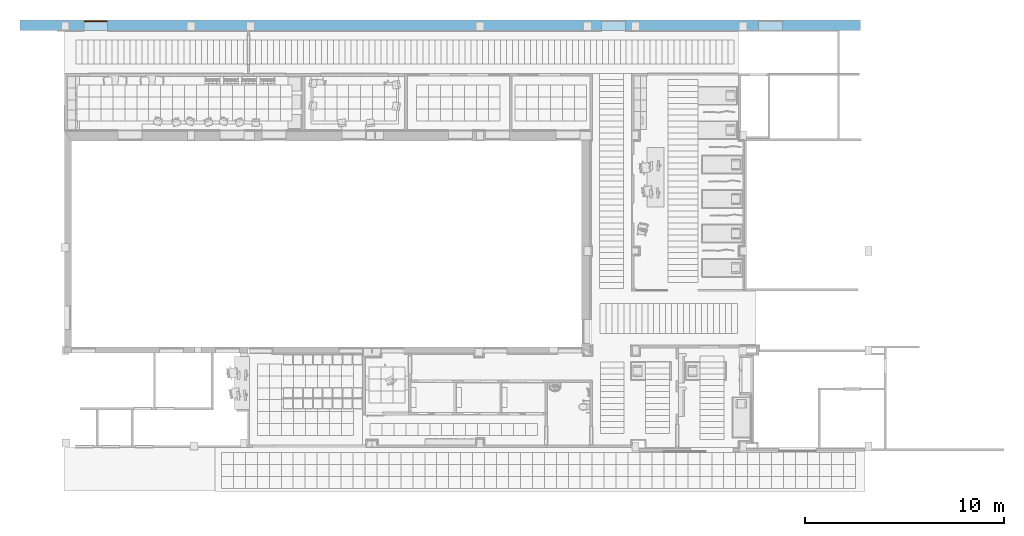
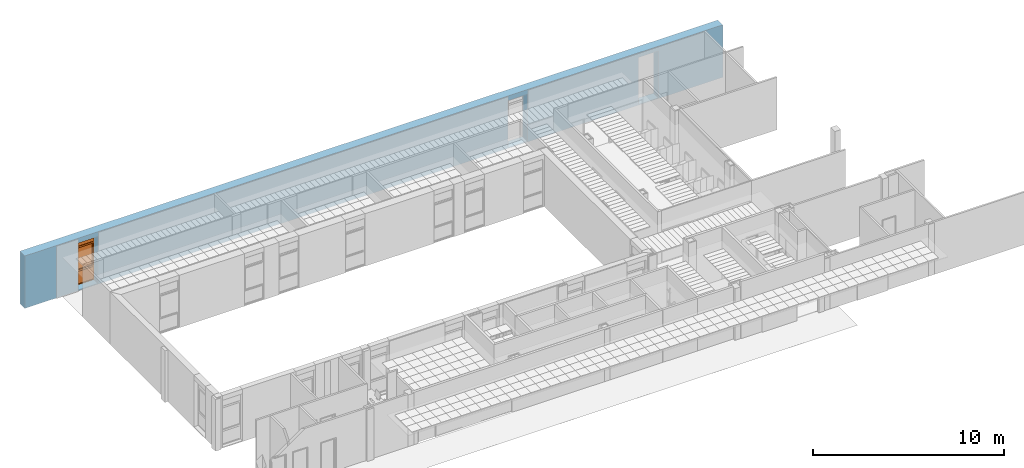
# One storey, part 42 of 68: 1 proxy, 3 openings, plus 1 element that does not belong to this part.
"""IFC2X3 building model written with IfcOpenShell, lengths in millimetres."""

from ifc_helpers import new_model, entity, si_unit, converted_unit, derived_unit, money_unit, direction, frame, origin_with_axes, origin_2d_with_axis, place, context, subcontext, project, spatial, polyline, rectangle, outline, extrude, open_shell, faceted_brep, surface_model, source, transform, mapped, material, layer, layer_set, layer_usage, type_object, element, fill, save


model = new_model("IFC2X3")

# Units and contexts
model_context = context("Model", 3, precision=0.01, world=origin_with_axes(), true_north=direction((0.0, 1.0)))
body_context = subcontext(model_context, "Body", "Model", "MODEL_VIEW")
ifc_project = project(units=[si_unit("LENGTHUNIT", "METRE", prefix="MILLI"), si_unit("AREAUNIT", "SQUARE_METRE"), si_unit("VOLUMEUNIT", "CUBIC_METRE"), converted_unit("PLANEANGLEUNIT", "DEGREE", entity("IfcPlaneAngleMeasure", 0.0174532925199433), si_unit("PLANEANGLEUNIT", "RADIAN"), dimensions=[0, 0, 0, 0, 0, 0, 0]), money_unit("USD"), converted_unit("TIMEUNIT", "Year", entity("IfcTimeMeasure", 31557600.0), si_unit("TIMEUNIT", "SECOND"), dimensions=[0, 0, 1, 0, 0, 0, 0]), si_unit("MASSUNIT", "GRAM", prefix="KILO"), si_unit("THERMODYNAMICTEMPERATUREUNIT", "DEGREE_CELSIUS"), si_unit("LUMINOUSINTENSITYUNIT", "LUMEN"), si_unit("ENERGYUNIT", "JOULE", prefix="MEGA"), derived_unit("THERMALCONDUCTANCEUNIT", [(si_unit("POWERUNIT", "WATT"), 1), (si_unit("LENGTHUNIT", "METRE"), -1), (si_unit("THERMODYNAMICTEMPERATUREUNIT", "KELVIN"), -1)]), derived_unit("SPECIFICHEATCAPACITYUNIT", [(si_unit("ENERGYUNIT", "JOULE"), 1), (si_unit("MASSUNIT", "GRAM", prefix="KILO"), -1), (si_unit("THERMODYNAMICTEMPERATUREUNIT", "KELVIN"), -1)]), derived_unit("MASSDENSITYUNIT", [(si_unit("MASSUNIT", "GRAM", prefix="KILO"), 1), (si_unit("VOLUMEUNIT", "CUBIC_METRE"), -1)])], contexts=[model_context])

# Site, building, storey
site_placement = place(None, origin_with_axes())
site = spatial("IfcSite", under=ifc_project, at=site_placement, Name="Sitio", CompositionType="ELEMENT")
building_placement = place(site_placement, origin_with_axes())
building = spatial("IfcBuilding", under=site, at=building_placement, Name="Construcción", CompositionType="ELEMENT")
storey_placement = place(building_placement, origin_with_axes())
storey = spatial("IfcBuildingStorey", under=building, at=storey_placement, Name="PLANTA 1ª", CompositionType="ELEMENT", Elevation=0.0)

# Wall, openings, proxy
ifc_material_1 = material(Name="ARQ_CE217_Gero")
ifc_layer_1 = layer(ifc_material_1, 100.0, ventilated="UNKNOWN")
ifc_material_2 = material(Name="ARQ_AI031_Aillament_Poliestireno expandido EPS")
ifc_layer_2 = layer(ifc_material_2, 205.0, ventilated="UNKNOWN")
ifc_material_3 = material(Name="ARQ_CE218_Ceramic")
ifc_layer_3 = layer(ifc_material_3, 200.0, ventilated="UNKNOWN")
ifc_material_4 = material(Name="ARQ_AM246_Arrebossat_De_Guix")
ifc_layer_4 = layer(ifc_material_4, 10.0, ventilated="UNKNOWN")
ifc_layer_set = layer_set([ifc_layer_1, ifc_layer_2, ifc_layer_3, ifc_layer_4], Name="façana pati CR5")
ifc_layer_usage = layer_usage(ifc_layer_set, "AXIS2", "NEGATIVE", 515.0)
wall_type = type_object("IfcWallType", Name="façana pati CR5 515", PredefinedType="NOTDEFINED")
wall_placement = place(storey_placement, frame((11882.64037720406, 4378.454186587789, 0.0), z_axis=(0.0, 0.0, 1.0), x_axis=(-1.0, 0.0, 0.0)))
wall = element("IfcWallStandardCase", 1, at=wall_placement, inside=storey, type_object=wall_type, material=ifc_layer_usage, Name="MS-201", context=body_context, shape_type="SweptSolid", body=[
    extrude(outline(polyline([(0.0, 0.0), (42162.71352873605, 0.0), (42162.71352873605, 515.0000000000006), (0.0, 515.0000000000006), (0.0, 0.0)])), origin_with_axes(), (0.0, 0.0, 1.0), 3350.0),
])
opening_1_placement = place(wall_placement, frame((12393.17017963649, 0.0, 50.0), z_axis=(0.0, 0.0, 1.0), x_axis=(1.0, 0.0, 0.0)))
element("IfcOpeningElement", 2, at=opening_1_placement, cuts=wall, Name="V - 008", context=body_context, shape_type="SweptSolid", body=[
    extrude(rectangle(XDim=1199.999999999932, YDim=3000.0, at=origin_2d_with_axis()), frame((0.0, 49.99999999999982, 1500.0), z_axis=(0.0, 1.0, 0.0), x_axis=(1.0, 0.0, 0.0)), (0.0, 0.0, 1.0), 980.0),
    extrude(rectangle(XDim=1199.999999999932, YDim=3000.0, at=origin_2d_with_axis()), frame((0.0, 49.99999999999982, 1500.0), z_axis=(0.0, -1.0, 0.0), x_axis=(1.0, 0.0, 0.0)), (0.0, 0.0, 1.0), 565.0000000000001),
])
opening_2_placement = place(wall_placement, frame((4499.643658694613, 0.0, 50.0), z_axis=(0.0, 0.0, 1.0), x_axis=(1.0, 0.0, 0.0)))
element("IfcOpeningElement", 3, at=opening_2_placement, cuts=wall, Name="V - 009", context=body_context, shape_type="SweptSolid", body=[
    extrude(rectangle(XDim=1199.999999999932, YDim=3000.0, at=origin_2d_with_axis()), frame((0.0, 49.99999999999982, 1500.0), z_axis=(0.0, 1.0, 0.0), x_axis=(1.0, 0.0, 0.0)), (0.0, 0.0, 1.0), 980.0),
    extrude(rectangle(XDim=1199.999999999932, YDim=3000.0, at=origin_2d_with_axis()), frame((0.0, 49.99999999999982, 1500.0), z_axis=(0.0, -1.0, 0.0), x_axis=(1.0, 0.0, 0.0)), (0.0, 0.0, 1.0), 565.0000000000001),
])
opening_3_placement = place(wall_placement, frame((38361.73170307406, 0.0, 50.0), z_axis=(0.0, 0.0, 1.0), x_axis=(1.0, 0.0, 0.0)))
opening_3 = element("IfcOpeningElement", 4, at=opening_3_placement, cuts=wall, Name="V - 010", context=body_context, shape_type="SweptSolid", body=[
    extrude(rectangle(XDim=1199.999999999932, YDim=3000.0, at=origin_2d_with_axis()), frame((0.0, 49.99999999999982, 1500.0), z_axis=(0.0, -1.0, 0.0), x_axis=(-1.0, 0.0, 0.0)), (0.0, 0.0, -1.0), 980.0),
    extrude(rectangle(XDim=1199.999999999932, YDim=3000.0, at=origin_2d_with_axis()), frame((0.0, 49.99999999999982, 1500.0), z_axis=(0.0, 1.0, 0.0), x_axis=(-1.0, 0.0, 0.0)), (0.0, 0.0, -1.0), 565.0000000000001),
])
building_element_proxy_type = type_object("IfcBuildingElementProxyType", Name="Ventana Vertical Multi-Faja 27", PredefinedType="NOTDEFINED")
shared_shape = source(origin_with_axes(), body_context, "Body", "SurfaceModel", [
    faceted_brep([(-574.9999999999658, 0.0, 925.0), (-549.9999999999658, 0.0, 925.0), (-549.9999999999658, 0.0, 850.0), (-549.9999999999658, 0.0, 50.00000000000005), (-599.9999999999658, 0.0, 50.00000000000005), (-599.9999999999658, 0.0, 2950.0), (-549.9999999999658, 0.0, 2950.0), (-549.9999999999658, 0.0, 2450.0), (-549.9999999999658, 0.0, 2375.0), (-574.9999999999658, 0.0, 2375.0), (-574.9999999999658, -25.00000000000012, 925.0), (-549.9999999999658, -25.00000000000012, 925.0), (-549.9999999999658, -25.00000000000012, 950.0000000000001), (-549.9999999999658, -50.00000000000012, 950.0000000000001), (-549.9999999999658, -50.00000000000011, 850.0), (-549.9999999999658, -50.00000000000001, 50.00000000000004), (-599.9999999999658, -50.00000000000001, 50.00000000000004), (-599.9999999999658, -50.00000000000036, 2950.0), (-549.9999999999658, -50.00000000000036, 2950.0), (-549.9999999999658, -50.0000000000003, 2450.0), (-549.9999999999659, -25.00000000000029, 2375.0), (-549.9999999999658, -50.00000000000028, 2350.0), (-549.9999999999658, -25.00000000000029, 2350.0), (-574.9999999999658, -25.00000000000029, 2375.0)], [[[0, 1, 2, 3, 4, 5, 6, 7, 8, 9]], [[0, 10, 11, 1]], [[11, 12, 13, 14, 2, 1]], [[3, 2, 14, 15]], [[4, 3, 15, 16]], [[5, 4, 16, 17]], [[6, 5, 17, 18]], [[7, 6, 18, 19]], [[20, 8, 7, 19, 21, 22]], [[20, 23, 9, 8]], [[9, 23, 10, 0]], [[22, 12, 11, 10, 23, 20]], [[22, 21, 13, 12]], [[17, 16, 15, 14, 13, 21, 19, 18]]]),
    faceted_brep([(574.9999999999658, 0.0, 925.0), (574.9999999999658, 0.0, 2375.0), (549.9999999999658, 0.0, 2375.0), (549.9999999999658, 0.0, 2450.0), (549.9999999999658, 0.0, 2950.0), (599.9999999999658, 0.0, 2950.0), (599.9999999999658, 0.0, 50.00000000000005), (549.9999999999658, 0.0, 50.00000000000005), (549.9999999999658, 0.0, 850.0), (549.9999999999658, 0.0, 925.0), (574.9999999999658, -25.00000000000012, 925.0), (574.9999999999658, -25.00000000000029, 2375.0), (549.9999999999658, -25.00000000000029, 2375.0), (549.9999999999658, -25.00000000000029, 2350.0), (549.9999999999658, -50.00000000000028, 2350.0), (549.9999999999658, -50.0000000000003, 2450.0), (549.9999999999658, -50.00000000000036, 2950.0), (599.9999999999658, -50.00000000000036, 2950.0), (599.9999999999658, -50.00000000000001, 50.00000000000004), (549.9999999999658, -50.00000000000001, 50.00000000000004), (549.9999999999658, -50.00000000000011, 850.0), (549.9999999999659, -25.00000000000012, 925.0), (549.9999999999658, -50.00000000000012, 950.0000000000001), (549.9999999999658, -25.00000000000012, 950.0000000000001)], [[[0, 1, 2, 3, 4, 5, 6, 7, 8, 9]], [[0, 10, 11, 1]], [[1, 11, 12, 2]], [[12, 13, 14, 15, 3, 2]], [[4, 3, 15, 16]], [[5, 4, 16, 17]], [[6, 5, 17, 18]], [[7, 6, 18, 19]], [[8, 7, 19, 20]], [[21, 9, 8, 20, 22, 23]], [[9, 21, 10, 0]], [[12, 11, 10, 21, 23, 13]], [[23, 22, 14, 13]], [[14, 22, 20, 19, 18, 17, 16, 15]]]),
    faceted_brep([(-549.9999999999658, -25.00000000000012, 950.0000000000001), (-549.9999999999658, -50.00000000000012, 950.0000000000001), (549.9999999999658, -50.00000000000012, 950.0000000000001), (549.9999999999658, -25.00000000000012, 950.0000000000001), (-549.9999999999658, -25.00000000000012, 925.0), (-549.9999999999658, 0.0, 925.0), (-549.9999999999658, 0.0, 850.0), (-549.9999999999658, -50.00000000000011, 850.0), (549.9999999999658, -50.00000000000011, 850.0), (549.9999999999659, -25.00000000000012, 925.0), (549.9999999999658, 0.0, 850.0), (549.9999999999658, 0.0, 925.0)], [[[0, 1, 2, 3]], [[4, 5, 6, 7, 1, 0]], [[1, 7, 8, 2]], [[9, 3, 2, 8, 10, 11]], [[9, 4, 0, 3]], [[5, 4, 9, 11]], [[11, 10, 6, 5]], [[6, 10, 8, 7]]]),
    faceted_brep([(-549.9999999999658, 0.0, 2375.0), (-549.9999999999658, 0.0, 2450.0), (549.9999999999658, 0.0, 2450.0), (549.9999999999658, 0.0, 2375.0), (-549.9999999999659, -25.00000000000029, 2375.0), (-549.9999999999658, -25.00000000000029, 2350.0), (-549.9999999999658, -50.00000000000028, 2350.0), (-549.9999999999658, -50.0000000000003, 2450.0), (549.9999999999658, -50.0000000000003, 2450.0), (549.9999999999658, -25.00000000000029, 2375.0), (549.9999999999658, -50.00000000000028, 2350.0), (549.9999999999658, -25.00000000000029, 2350.0)], [[[0, 1, 2, 3]], [[4, 5, 6, 7, 1, 0]], [[2, 1, 7, 8]], [[9, 3, 2, 8, 10, 11]], [[9, 4, 0, 3]], [[11, 5, 4, 9]], [[11, 10, 6, 5]], [[7, 6, 10, 8]]]),
    faceted_brep([(549.9999999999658, -50.00000000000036, 2950.0), (549.9999999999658, 0.0, 2950.0), (599.9999999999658, 0.0, 2950.0), (599.9999999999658, -50.00000000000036, 2950.0), (-549.9999999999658, -50.00000000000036, 2950.0), (-549.9999999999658, 0.0, 2950.0), (-599.9999999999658, 0.0, 2950.0), (-599.9999999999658, 0.0, 3000.0), (599.9999999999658, 0.0, 3000.0), (599.9999999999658, -50.00000000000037, 3000.0), (-599.9999999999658, -50.00000000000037, 3000.0), (-599.9999999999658, -50.00000000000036, 2950.0)], [[[0, 1, 2, 3]], [[4, 5, 1, 0]], [[1, 5, 6, 7, 8, 2]], [[3, 2, 8, 9]], [[0, 3, 9, 10, 11, 4]], [[11, 6, 5, 4]], [[10, 7, 6, 11]], [[9, 8, 7, 10]]]),
    faceted_brep([(-549.9999999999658, -50.00000000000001, 50.0), (-549.9999999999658, 0.0, 50.00000000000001), (-599.9999999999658, 0.0, 50.00000000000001), (-599.9999999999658, -50.00000000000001, 50.0), (549.9999999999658, -50.00000000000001, 50.0), (549.9999999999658, 0.0, 50.00000000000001), (599.9999999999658, 0.0, 50.00000000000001), (599.9999999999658, 0.0, 0.0), (-599.9999999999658, 0.0, 0.0), (-599.9999999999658, -50.0, 0.0), (599.9999999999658, -50.0, 0.0), (599.9999999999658, -50.00000000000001, 50.0)], [[[0, 1, 2, 3]], [[4, 5, 1, 0]], [[1, 5, 6, 7, 8, 2]], [[3, 2, 8, 9]], [[0, 3, 9, 10, 11, 4]], [[11, 6, 5, 4]], [[10, 7, 6, 11]], [[9, 8, 7, 10]]]),
    surface_model("IfcShellBasedSurfaceModel", [(-549.9999999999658, -35.0, 49.99999999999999), (549.9999999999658, -35.0, 49.99999999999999), (549.9999999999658, -35.0000000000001, 850.0), (-549.9999999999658, -35.0000000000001, 850.0)], [open_shell([[[0, 1, 2, 3]]])]),
    surface_model("IfcShellBasedSurfaceModel", [(-549.9999999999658, -15.0, 49.99999999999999), (-549.9999999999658, -15.0000000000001, 850.0), (549.9999999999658, -15.0000000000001, 850.0), (549.9999999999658, -15.0, 49.99999999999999)], [open_shell([[[0, 1, 2, 3]]])]),
    faceted_brep([(-521.4999999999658, -25.00000000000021, 1677.0), (-522.8397459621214, -25.00000000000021, 1682.0), (-522.8397459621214, -37.00000000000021, 1682.0), (-521.4999999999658, -37.00000000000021, 1677.0), (-521.4999999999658, -25.0000000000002, 1623.0), (-522.8397459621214, -25.0000000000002, 1618.0), (-526.4999999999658, -25.0000000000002, 1614.339745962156), (-531.4999999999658, -25.0000000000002, 1613.0), (-543.4999999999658, -25.0000000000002, 1613.0), (-548.4999999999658, -25.0000000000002, 1614.339745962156), (-552.1602540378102, -25.0000000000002, 1618.0), (-553.4999999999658, -25.0000000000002, 1623.0), (-553.4999999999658, -25.00000000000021, 1677.0), (-552.1602540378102, -25.00000000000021, 1682.0), (-548.4999999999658, -25.00000000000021, 1685.660254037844), (-543.4999999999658, -25.00000000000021, 1687.0), (-531.4999999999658, -25.00000000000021, 1687.0), (-526.4999999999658, -25.00000000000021, 1685.660254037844), (-526.4999999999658, -37.00000000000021, 1685.660254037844), (-531.4999999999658, -37.00000000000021, 1687.0), (-543.4999999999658, -37.00000000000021, 1687.0), (-548.4999999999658, -37.00000000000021, 1685.660254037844), (-552.1602540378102, -37.00000000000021, 1682.0), (-553.4999999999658, -37.00000000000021, 1677.0), (-553.4999999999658, -37.0000000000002, 1623.0), (-552.1602540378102, -37.0000000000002, 1618.0), (-548.4999999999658, -37.0000000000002, 1614.339745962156), (-543.4999999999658, -37.0000000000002, 1613.0), (-531.4999999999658, -37.0000000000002, 1613.0), (-526.4999999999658, -37.0000000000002, 1614.339745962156), (-522.8397459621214, -37.0000000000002, 1618.0), (-521.4999999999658, -37.0000000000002, 1623.0)], [[[0, 1, 2, 3]], [[0, 4, 5, 6, 7, 8, 9, 10, 11, 12, 13, 14, 15, 16, 17, 1]], [[1, 17, 18, 2]], [[3, 2, 18, 19, 20, 21, 22, 23, 24, 25, 26, 27, 28, 29, 30, 31]], [[4, 0, 3, 31]], [[5, 4, 31, 30]], [[6, 5, 30, 29]], [[7, 6, 29, 28]], [[8, 7, 28, 27]], [[9, 8, 27, 26]], [[10, 9, 26, 25]], [[11, 10, 25, 24]], [[12, 11, 24, 23]], [[13, 12, 23, 22]], [[14, 13, 22, 21]], [[15, 14, 21, 20]], [[16, 15, 20, 19]], [[17, 16, 19, 18]]]),
    faceted_brep([(-537.4999999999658, -37.0000000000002, 1663.5), (-544.2499999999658, -37.0000000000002, 1661.69134295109), (-544.2499999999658, -61.00000000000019, 1661.69134295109), (-537.4999999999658, -61.00000000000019, 1663.5), (-530.7499999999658, -37.0000000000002, 1661.69134295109), (-525.8086570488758, -37.0000000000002, 1656.75), (-523.9999999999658, -37.0000000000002, 1650.0), (-525.808657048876, -37.0000000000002, 1643.25), (-530.7499999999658, -37.0000000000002, 1638.30865704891), (-537.4999999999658, -37.0000000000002, 1636.5), (-544.2499999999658, -37.0000000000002, 1638.30865704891), (-549.1913429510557, -37.0000000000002, 1643.25), (-550.9999999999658, -37.0000000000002, 1650.0), (-549.1913429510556, -37.0000000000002, 1656.75), (-549.1913429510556, -61.00000000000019, 1656.75), (-550.9999999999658, -61.00000000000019, 1650.0), (-549.1913429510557, -61.00000000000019, 1643.25), (-544.2499999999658, -61.00000000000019, 1638.30865704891), (-537.4999999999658, -61.00000000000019, 1636.5), (-530.7499999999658, -61.00000000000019, 1638.30865704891), (-525.808657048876, -61.00000000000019, 1643.25), (-523.9999999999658, -61.00000000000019, 1650.0), (-525.8086570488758, -61.00000000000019, 1656.75), (-530.7499999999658, -61.00000000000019, 1661.69134295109)], [[[0, 1, 2, 3]], [[0, 4, 5, 6, 7, 8, 9, 10, 11, 12, 13, 1]], [[1, 13, 14, 2]], [[3, 2, 14, 15, 16, 17, 18, 19, 20, 21, 22, 23]], [[4, 0, 3, 23]], [[5, 4, 23, 22]], [[6, 5, 22, 21]], [[7, 6, 21, 20]], [[8, 7, 20, 19]], [[9, 8, 19, 18]], [[10, 9, 18, 17]], [[11, 10, 17, 16]], [[12, 11, 16, 15]], [[13, 12, 15, 14]]]),
    faceted_brep([(-525.9999999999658, -61.00000000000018, 1543.0), (-537.4999999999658, -61.00000000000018, 1540.0), (-548.9999999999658, -61.00000000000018, 1543.0), (-550.9999999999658, -61.00000000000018, 1546.0), (-550.9999999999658, -61.00000000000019, 1650.0), (-549.1913429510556, -61.00000000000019, 1656.75), (-544.2499999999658, -61.00000000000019, 1661.69134295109), (-537.4999999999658, -61.00000000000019, 1663.5), (-530.7499999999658, -61.00000000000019, 1661.69134295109), (-525.8086570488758, -61.00000000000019, 1656.75), (-523.9999999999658, -61.00000000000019, 1650.0), (-523.9999999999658, -61.00000000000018, 1546.0), (-525.999999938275, -69.00000000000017, 1543.000000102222), (-537.4999999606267, -69.00000000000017, 1539.999999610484), (-548.9999999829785, -69.00000000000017, 1543.000000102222), (-551.000000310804, -69.00000000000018, 1545.999999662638), (-551.000000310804, -69.0000000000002, 1649.99999994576), (-549.1913429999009, -69.0000000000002, 1656.749999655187), (-544.2499996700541, -69.0000000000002, 1661.691342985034), (-537.4999999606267, -69.0000000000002, 1663.500000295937), (-530.7500002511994, -69.0000000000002, 1661.691342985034), (-525.8086569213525, -69.0000000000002, 1656.749999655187), (-523.9999996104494, -69.0000000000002, 1649.99999994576), (-523.9999996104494, -69.00000000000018, 1545.999999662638), (-527.8625374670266, -71.99999956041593, 1545.61451963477), (-537.4999999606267, -71.99999956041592, 1543.100398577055), (-547.1374624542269, -71.99999956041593, 1545.61451963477), (-548.0000007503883, -71.99999956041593, 1546.908326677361), (-548.0000007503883, -71.99999956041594, 1649.605042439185), (-546.50161703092, -71.99999956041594, 1655.197085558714), (-542.697085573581, -71.99999956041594, 1659.001617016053), (-537.4999999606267, -71.99999956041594, 1660.394172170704), (-532.3029143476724, -71.99999956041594, 1659.001617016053), (-528.4983828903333, -71.99999956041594, 1655.197085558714), (-526.9999991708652, -71.99999956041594, 1649.605042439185), (-526.9999991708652, -71.99999956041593, 1546.908326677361)], [[[0, 1, 2, 3, 4, 5, 6, 7, 8, 9, 10, 11]], [[1, 0, 12, 13]], [[2, 1, 13, 14]], [[3, 2, 14, 15]], [[4, 3, 15, 16]], [[5, 4, 16, 17]], [[6, 5, 17, 18]], [[7, 6, 18, 19]], [[8, 7, 19, 20]], [[9, 8, 20, 21]], [[10, 9, 21, 22]], [[11, 10, 22, 23]], [[0, 11, 23, 12]], [[13, 12, 24, 25]], [[14, 13, 25, 26]], [[15, 14, 26, 27]], [[16, 15, 27, 28]], [[17, 16, 28, 29]], [[18, 17, 29, 30]], [[19, 18, 30, 31]], [[20, 19, 31, 32]], [[21, 20, 32, 33]], [[22, 21, 33, 34]], [[23, 22, 34, 35]], [[12, 23, 35, 24]], [[26, 25, 24, 35, 34, 33, 32, 31, 30, 29, 28, 27]]]),
    faceted_brep([(-524.9999999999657, -25.00000000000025, 2325.0), (-524.9999999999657, 24.99999999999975, 2325.0), (-574.9999999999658, 24.99999999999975, 2325.0), (-574.9999999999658, -25.00000000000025, 2325.0), (-524.9999999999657, -25.00000000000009, 975.0000000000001), (-524.9999999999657, 24.99999999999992, 975.0000000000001), (-574.9999999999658, 24.99999999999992, 975.0000000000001), (-574.9999999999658, -25.00000000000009, 975.0000000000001)], [[[0, 1, 2, 3]], [[4, 5, 1, 0]], [[1, 5, 6, 2]], [[3, 2, 6, 7]], [[0, 3, 7, 4]], [[7, 6, 5, 4]]]),
    faceted_brep([(524.9999999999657, -25.00000000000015, 975.0000000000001), (524.9999999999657, 24.99999999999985, 975.0000000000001), (574.9999999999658, 24.99999999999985, 975.0000000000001), (574.9999999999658, -25.00000000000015, 975.0000000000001), (524.9999999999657, -25.00000000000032, 2325.0), (524.9999999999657, 24.99999999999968, 2325.0), (574.9999999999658, 24.99999999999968, 2325.0), (574.9999999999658, -25.00000000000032, 2325.0)], [[[0, 1, 2, 3]], [[4, 5, 1, 0]], [[1, 5, 6, 2]], [[3, 2, 6, 7]], [[0, 3, 7, 4]], [[7, 6, 5, 4]]]),
    faceted_brep([(574.9999999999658, -25.00000000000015, 925.0), (574.9999999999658, 24.99999999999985, 925.0), (574.9999999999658, 24.99999999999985, 975.0000000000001), (574.9999999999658, -25.00000000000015, 975.0000000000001), (-574.9999999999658, -25.00000000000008, 925.0), (-574.9999999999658, 24.99999999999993, 925.0), (-574.9999999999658, 24.99999999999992, 975.0000000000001), (-524.9999999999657, 24.99999999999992, 975.0000000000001), (524.9999999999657, 24.99999999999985, 975.0000000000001), (524.9999999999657, -25.00000000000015, 975.0000000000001), (-524.9999999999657, -25.00000000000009, 975.0000000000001), (-574.9999999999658, -25.00000000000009, 975.0000000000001)], [[[0, 1, 2, 3]], [[4, 5, 1, 0]], [[1, 5, 6, 7, 8, 2]], [[3, 2, 8, 9]], [[0, 3, 9, 10, 11, 4]], [[11, 6, 5, 4]], [[10, 7, 6, 11]], [[9, 8, 7, 10]]]),
    faceted_brep([(-574.9999999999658, -25.00000000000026, 2375.0), (-574.9999999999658, 24.99999999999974, 2375.0), (-574.9999999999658, 24.99999999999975, 2325.0), (-574.9999999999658, -25.00000000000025, 2325.0), (574.9999999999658, -25.00000000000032, 2375.0), (574.9999999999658, 24.99999999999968, 2375.0), (574.9999999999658, 24.99999999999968, 2325.0), (524.9999999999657, 24.99999999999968, 2325.0), (-524.9999999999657, 24.99999999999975, 2325.0), (-524.9999999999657, -25.00000000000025, 2325.0), (524.9999999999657, -25.00000000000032, 2325.0), (574.9999999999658, -25.00000000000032, 2325.0)], [[[0, 1, 2, 3]], [[4, 5, 1, 0]], [[1, 5, 6, 7, 8, 2]], [[3, 2, 8, 9]], [[0, 3, 9, 10, 11, 4]], [[11, 6, 5, 4]], [[10, 7, 6, 11]], [[9, 8, 7, 10]]]),
    surface_model("IfcShellBasedSurfaceModel", [(-524.9999999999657, -10.00000000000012, 975.0000000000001), (524.9999999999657, -10.00000000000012, 975.0000000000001), (524.9999999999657, -10.00000000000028, 2325.0), (-524.9999999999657, -10.00000000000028, 2325.0)], [open_shell([[[0, 1, 2, 3]]])]),
    surface_model("IfcShellBasedSurfaceModel", [(-524.9999999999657, 9.999999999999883, 975.0000000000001), (-524.9999999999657, 9.99999999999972, 2325.0), (524.9999999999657, 9.99999999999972, 2325.0), (524.9999999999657, 9.999999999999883, 975.0000000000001)], [open_shell([[[0, 1, 2, 3]]])]),
    surface_model("IfcShellBasedSurfaceModel", [(-549.9999999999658, -35.0000000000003, 2450.0), (549.9999999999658, -35.0000000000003, 2450.0), (549.9999999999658, -35.00000000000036, 2950.0), (-549.9999999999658, -35.00000000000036, 2950.0)], [open_shell([[[0, 1, 2, 3]]])]),
    surface_model("IfcShellBasedSurfaceModel", [(-549.9999999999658, -15.0000000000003, 2450.0), (-549.9999999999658, -15.00000000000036, 2950.0), (549.9999999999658, -15.00000000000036, 2950.0), (549.9999999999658, -15.0000000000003, 2450.0)], [open_shell([[[0, 1, 2, 3]]])]),
])
proxy_placement = place(opening_3_placement, frame((599.9999999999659, 0.0, 0.0), z_axis=(0.0, 0.0, 1.0), x_axis=(-1.0, 0.0, 0.0)))
proxy = element("IfcBuildingElementProxy", 5, at=proxy_placement, inside=storey, type_object=building_element_proxy_type, Name="V - 010", context=body_context, shape_type="MappedRepresentation", body=[
    mapped(shared_shape, transform((599.9999999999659, -49.99999999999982, 0.0))),
])
fill(opening_3, proxy)

save(model, "model.ifc")
